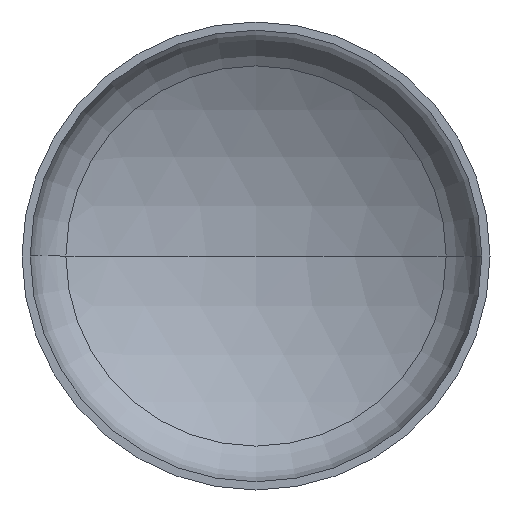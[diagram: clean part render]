
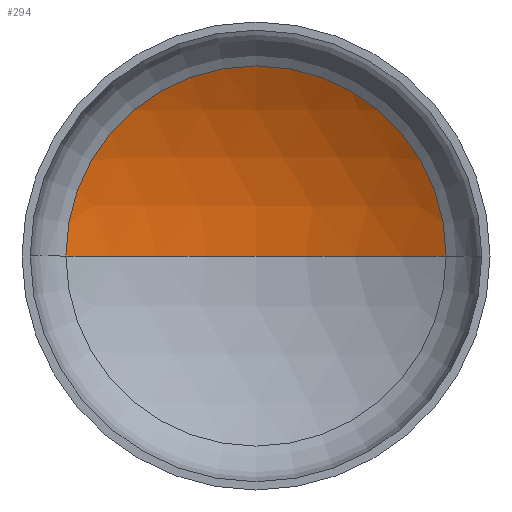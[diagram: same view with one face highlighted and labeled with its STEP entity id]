
A CAD part, front view. The second image highlights one B-rep face of the part: STEP entity #294.
In plain terms, the highlighted spherical face has radius 1760 mm.
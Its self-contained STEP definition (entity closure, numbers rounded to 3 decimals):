
#11 = VERTEX_POINT ( 'NONE', #253 ) ;
#23 = EDGE_CURVE ( 'NONE', #11, #66, #120, .T. ) ;
#24 = EDGE_CURVE ( 'NONE', #292, #11, #362, .T. ) ;
#26 = EDGE_CURVE ( 'NONE', #292, #66, #276, .T. ) ;
#28 = DIRECTION ( 'NONE',  ( -1., 0., 0. ) ) ;
#66 = VERTEX_POINT ( 'NONE', #202 ) ;
#120 = CIRCLE ( 'NONE', #230, 893.634 ) ;
#135 = DIRECTION ( 'NONE',  ( 0., -1., 0. ) ) ;
#157 = DIRECTION ( 'NONE',  ( 1., 0., 0. ) ) ;
#163 = DIRECTION ( 'NONE',  ( 0., 0., 1. ) ) ;
#164 = FACE_OUTER_BOUND ( 'NONE', #247, .T. ) ;
#166 = DIRECTION ( 'NONE',  ( 1., 0., 0. ) ) ;
#168 = CARTESIAN_POINT ( 'NONE',  ( 0., -1103.339, 0. ) ) ;
#186 = DIRECTION ( 'NONE',  ( -1., 0., 0. ) ) ;
#196 = DIRECTION ( 'NONE',  ( 0., 0., -1. ) ) ;
#202 = CARTESIAN_POINT ( 'NONE',  ( -893.634, 412.912, 0. ) ) ;
#220 = AXIS2_PLACEMENT_3D ( 'NONE', #227, #196, #28 ) ;
#227 = CARTESIAN_POINT ( 'NONE',  ( 0., -1103.339, 0. ) ) ;
#230 = AXIS2_PLACEMENT_3D ( 'NONE', #269, #135, #157 ) ;
#247 = EDGE_LOOP ( 'NONE', ( #380, #391, #365 ) ) ;
#248 = AXIS2_PLACEMENT_3D ( 'NONE', #274, #273, #186 ) ;
#253 = CARTESIAN_POINT ( 'NONE',  ( 893.634, 412.912, 0. ) ) ;
#256 = CARTESIAN_POINT ( 'NONE',  ( 0., 656.661, 0. ) ) ;
#265 = AXIS2_PLACEMENT_3D ( 'NONE', #168, #163, #166 ) ;
#269 = CARTESIAN_POINT ( 'NONE',  ( 0., 412.912, 0. ) ) ;
#273 = DIRECTION ( 'NONE',  ( 0., 0., -1. ) ) ;
#274 = CARTESIAN_POINT ( 'NONE',  ( 0., -1103.339, 0. ) ) ;
#276 = CIRCLE ( 'NONE', #265, 1760. ) ;
#292 = VERTEX_POINT ( 'NONE', #256 ) ;
#294 = ADVANCED_FACE ( 'NONE', ( #164 ), #379, .F. ) ;
#362 = CIRCLE ( 'NONE', #248, 1760. ) ;
#365 = ORIENTED_EDGE ( 'NONE', *, *, #23, .T. ) ;
#379 = SPHERICAL_SURFACE ( 'NONE', #220, 1760. ) ;
#380 = ORIENTED_EDGE ( 'NONE', *, *, #26, .F. ) ;
#391 = ORIENTED_EDGE ( 'NONE', *, *, #24, .T. ) ;
